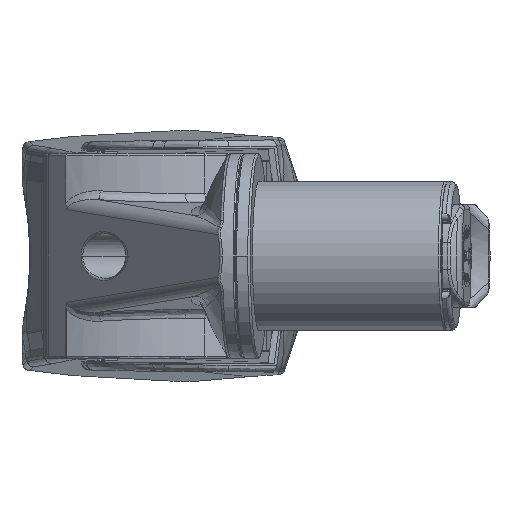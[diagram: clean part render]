
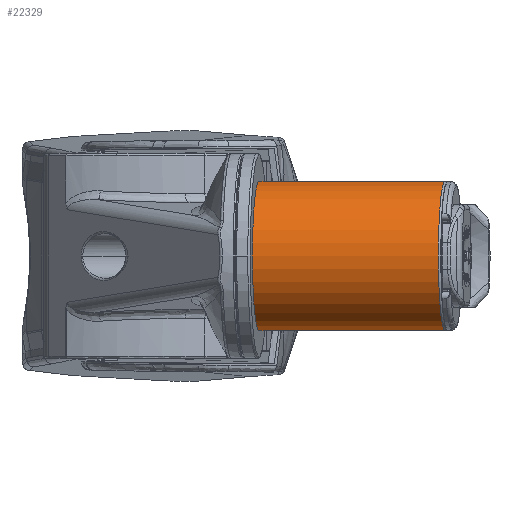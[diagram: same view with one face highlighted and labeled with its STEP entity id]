
A CAD part, front view. The second image highlights one B-rep face of the part: STEP entity #22329.
In plain terms, the highlighted cylindrical face has radius 16.75 mm (diameter 33.5 mm), a partial arc.
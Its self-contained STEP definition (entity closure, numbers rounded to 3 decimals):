
#9303=CARTESIAN_POINT('',(-8.006,-4.5,0.));
#9304=DIRECTION('',(0.,-1.,0.));
#9305=DIRECTION('',(0.,0.,-1.));
#9306=AXIS2_PLACEMENT_3D('',#9303,#9304,#9305);
#9308=DIRECTION('',(0.,1.,0.));
#9309=VECTOR('',#9308,41.8);
#9310=CARTESIAN_POINT('',(-8.006,-4.5,16.75));
#9311=LINE('',#9310,#9309);
#9312=DIRECTION('',(0.,1.,0.));
#9313=VECTOR('',#9312,41.8);
#9314=CARTESIAN_POINT('',(-8.006,-4.5,-16.75));
#9315=LINE('',#9314,#9313);
#9316=CARTESIAN_POINT('',(-8.006,37.3,0.));
#9317=DIRECTION('',(0.,1.,0.));
#9318=DIRECTION('',(0.,0.,1.));
#9319=AXIS2_PLACEMENT_3D('',#9316,#9317,#9318);
#13706=CARTESIAN_POINT('',(-8.006,37.3,-16.75));
#13707=CARTESIAN_POINT('',(-8.006,37.3,16.75));
#13708=VERTEX_POINT('',#13706);
#13709=VERTEX_POINT('',#13707);
#14266=CARTESIAN_POINT('',(-8.006,-4.5,16.75));
#14267=CARTESIAN_POINT('',(-8.006,-4.5,-16.75));
#14268=VERTEX_POINT('',#14266);
#14269=VERTEX_POINT('',#14267);
#22317=CARTESIAN_POINT('',(-8.006,37.8,0.));
#22318=DIRECTION('',(0.,-1.,0.));
#22319=DIRECTION('',(0.,0.,-1.));
#22320=AXIS2_PLACEMENT_3D('',#22317,#22318,#22319);
#22321=CYLINDRICAL_SURFACE('',#22320,16.75);
#22323=ORIENTED_EDGE('',*,*,#22322,.T.);
#22324=ORIENTED_EDGE('',*,*,#22310,.F.);
#22325=ORIENTED_EDGE('',*,*,#22297,.T.);
#22326=ORIENTED_EDGE('',*,*,#22307,.T.);
#22327=EDGE_LOOP('',(#22323,#22324,#22325,#22326));
#22328=FACE_OUTER_BOUND('',#22327,.F.);
#22329=ADVANCED_FACE('',(#22328),#22321,.T.);
#9307=CIRCLE('',#9306,16.75);
#9320=CIRCLE('',#9319,16.75);
#22297=EDGE_CURVE('',#14269,#14268,#9307,.T.);
#22307=EDGE_CURVE('',#14268,#13709,#9311,.T.);
#22310=EDGE_CURVE('',#14269,#13708,#9315,.T.);
#22322=EDGE_CURVE('',#13709,#13708,#9320,.T.);
